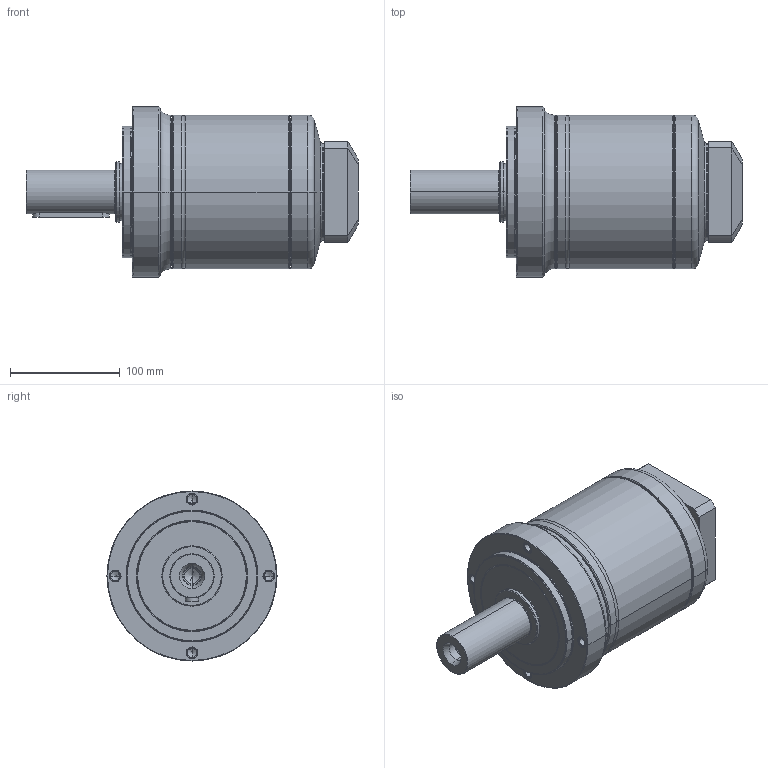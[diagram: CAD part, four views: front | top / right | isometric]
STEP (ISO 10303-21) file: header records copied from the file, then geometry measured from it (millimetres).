
FILE_DESCRIPTION((''),'2;1');
FILE_NAME('PE2-155_2ST_19-P0411400101_ASM','2016-05-03T',('d00435'),(''),'PRO/ENGINEER BY PARAMETRIC TECHNOLOGY CORPORATION, 2008410','PRO/ENGINEER BY PARAMETRIC TECHNOLOGY CORPORATION, 2008410','');
FILE_SCHEMA(('CONFIG_CONTROL_DESIGN'));
Length unit declared in the file: millimetre
Products named in the file (9): P1323510001; P0251500001; P1324500001; P0350501001; P0941500001; P0503400008; P0411400101; P1702500001; PE2-155_2ST_19-P0411400101_ASM
Assembly tree (8 placements, depth 2):
  PE2-155_2ST_19-P0411400101_ASM
    P1323510001
    P0251500001
    P1324500001
    P0350501001
    P0941500001
    P0503400008
    P0411400101
    P1702500001
Bounding box: 302.5 x 155 x 155 mm (x, y, z)
Volume: 2316511.8 mm3; surface area: 335252.3 mm2
Topology: 8 solids, 22 shells, 538 faces, 1199 edges, 706 vertices
Faces by surface type: cylinder 172, cone 148, torus 106, plane 96, bspline 16
Entity records: 19706 total; most frequent: CARTESIAN_POINT 7428, DIRECTION 2835, ORIENTED_EDGE 2270, AXIS2_PLACEMENT_3D 1226, EDGE_CURVE 1163, VERTEX_POINT 706, CIRCLE 677, EDGE_LOOP 619
